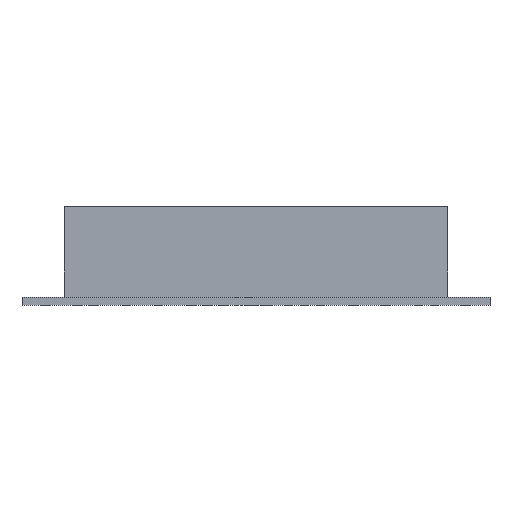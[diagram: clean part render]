
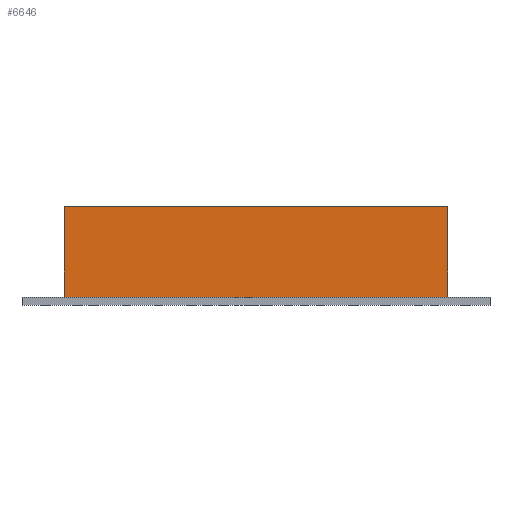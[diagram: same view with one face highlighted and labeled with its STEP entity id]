
A CAD part, left-side view. The second image highlights one B-rep face of the part: STEP entity #6646.
In plain terms, the highlighted planar face has unit normal (-1, 0, 0).
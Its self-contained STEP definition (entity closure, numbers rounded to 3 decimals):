
#126 = PLANE('',#127);
#127 = AXIS2_PLACEMENT_3D('',#128,#129,#130);
#128 = CARTESIAN_POINT('',(-0.1,-86.6,-112.));
#129 = DIRECTION('',(-0.,-0.,1.));
#130 = DIRECTION('',(1.,0.,0.));
#2374 = VERTEX_POINT('',#2375);
#2375 = CARTESIAN_POINT('',(-140.,71.,-112.));
#2389 = PLANE('',#2390);
#2390 = AXIS2_PLACEMENT_3D('',#2391,#2392,#2393);
#2391 = CARTESIAN_POINT('',(-136.,71.,-112.));
#2392 = DIRECTION('',(-0.,1.,-0.));
#2393 = DIRECTION('',(0.,0.,-1.));
#2401 = EDGE_CURVE('',#2402,#2374,#2404,.T.);
#2402 = VERTEX_POINT('',#2403);
#2403 = CARTESIAN_POINT('',(-140.,-71.,-112.));
#2404 = SURFACE_CURVE('',#2405,(#2409,#2416),.PCURVE_S1.);
#2405 = LINE('',#2406,#2407);
#2406 = CARTESIAN_POINT('',(-140.,-71.,-112.));
#2407 = VECTOR('',#2408,1.);
#2408 = DIRECTION('',(-0.,1.,-0.));
#2409 = PCURVE('',#126,#2410);
#2410 = DEFINITIONAL_REPRESENTATION('',(#2411),#2415);
#2411 = LINE('',#2412,#2413);
#2412 = CARTESIAN_POINT('',(-139.9,15.6));
#2413 = VECTOR('',#2414,1.);
#2414 = DIRECTION('',(-0.,1.));
#2415 = ( GEOMETRIC_REPRESENTATION_CONTEXT(2) 
PARAMETRIC_REPRESENTATION_CONTEXT() REPRESENTATION_CONTEXT('2D SPACE',''
  ) );
#2416 = PCURVE('',#2417,#2422);
#2417 = PLANE('',#2418);
#2418 = AXIS2_PLACEMENT_3D('',#2419,#2420,#2421);
#2419 = CARTESIAN_POINT('',(-140.,-71.,-112.));
#2420 = DIRECTION('',(-1.,-0.,-0.));
#2421 = DIRECTION('',(0.,0.,-1.));
#2422 = DEFINITIONAL_REPRESENTATION('',(#2423),#2427);
#2423 = LINE('',#2424,#2425);
#2424 = CARTESIAN_POINT('',(-0.,-0.));
#2425 = VECTOR('',#2426,1.);
#2426 = DIRECTION('',(-0.,-1.));
#2427 = ( GEOMETRIC_REPRESENTATION_CONTEXT(2) 
PARAMETRIC_REPRESENTATION_CONTEXT() REPRESENTATION_CONTEXT('2D SPACE',''
  ) );
#2443 = PLANE('',#2444);
#2444 = AXIS2_PLACEMENT_3D('',#2445,#2446,#2447);
#2445 = CARTESIAN_POINT('',(-136.,-71.,-112.));
#2446 = DIRECTION('',(-0.,1.,-0.));
#2447 = DIRECTION('',(0.,0.,-1.));
#6537 = PLANE('',#6538);
#6538 = AXIS2_PLACEMENT_3D('',#6539,#6540,#6541);
#6539 = CARTESIAN_POINT('',(-136.,-71.,-78.6));
#6540 = DIRECTION('',(-0.,-0.,1.));
#6541 = DIRECTION('',(1.,0.,0.));
#6555 = VERTEX_POINT('',#6556);
#6556 = CARTESIAN_POINT('',(-140.,71.,-78.6));
#6577 = EDGE_CURVE('',#2374,#6555,#6578,.T.);
#6578 = SURFACE_CURVE('',#6579,(#6583,#6590),.PCURVE_S1.);
#6579 = LINE('',#6580,#6581);
#6580 = CARTESIAN_POINT('',(-140.,71.,-112.));
#6581 = VECTOR('',#6582,1.);
#6582 = DIRECTION('',(-0.,-0.,1.));
#6583 = PCURVE('',#2389,#6584);
#6584 = DEFINITIONAL_REPRESENTATION('',(#6585),#6589);
#6585 = LINE('',#6586,#6587);
#6586 = CARTESIAN_POINT('',(-0.,4.));
#6587 = VECTOR('',#6588,1.);
#6588 = DIRECTION('',(-1.,0.));
#6589 = ( GEOMETRIC_REPRESENTATION_CONTEXT(2) 
PARAMETRIC_REPRESENTATION_CONTEXT() REPRESENTATION_CONTEXT('2D SPACE',''
  ) );
#6590 = PCURVE('',#2417,#6591);
#6591 = DEFINITIONAL_REPRESENTATION('',(#6592),#6596);
#6592 = LINE('',#6593,#6594);
#6593 = CARTESIAN_POINT('',(-0.,-142.));
#6594 = VECTOR('',#6595,1.);
#6595 = DIRECTION('',(-1.,-0.));
#6596 = ( GEOMETRIC_REPRESENTATION_CONTEXT(2) 
PARAMETRIC_REPRESENTATION_CONTEXT() REPRESENTATION_CONTEXT('2D SPACE',''
  ) );
#6604 = VERTEX_POINT('',#6605);
#6605 = CARTESIAN_POINT('',(-140.,-71.,-78.6));
#6626 = EDGE_CURVE('',#2402,#6604,#6627,.T.);
#6627 = SURFACE_CURVE('',#6628,(#6632,#6639),.PCURVE_S1.);
#6628 = LINE('',#6629,#6630);
#6629 = CARTESIAN_POINT('',(-140.,-71.,-112.));
#6630 = VECTOR('',#6631,1.);
#6631 = DIRECTION('',(-0.,-0.,1.));
#6632 = PCURVE('',#2443,#6633);
#6633 = DEFINITIONAL_REPRESENTATION('',(#6634),#6638);
#6634 = LINE('',#6635,#6636);
#6635 = CARTESIAN_POINT('',(-0.,4.));
#6636 = VECTOR('',#6637,1.);
#6637 = DIRECTION('',(-1.,0.));
#6638 = ( GEOMETRIC_REPRESENTATION_CONTEXT(2) 
PARAMETRIC_REPRESENTATION_CONTEXT() REPRESENTATION_CONTEXT('2D SPACE',''
  ) );
#6639 = PCURVE('',#2417,#6640);
#6640 = DEFINITIONAL_REPRESENTATION('',(#6641),#6645);
#6641 = LINE('',#6642,#6643);
#6642 = CARTESIAN_POINT('',(-0.,-0.));
#6643 = VECTOR('',#6644,1.);
#6644 = DIRECTION('',(-1.,-0.));
#6645 = ( GEOMETRIC_REPRESENTATION_CONTEXT(2) 
PARAMETRIC_REPRESENTATION_CONTEXT() REPRESENTATION_CONTEXT('2D SPACE',''
  ) );
#6646 = ADVANCED_FACE('',(#6647),#2417,.T.);
#6647 = FACE_BOUND('',#6648,.F.);
#6648 = EDGE_LOOP('',(#6649,#6650,#6651,#6652));
#6649 = ORIENTED_EDGE('',*,*,#6626,.F.);
#6650 = ORIENTED_EDGE('',*,*,#2401,.T.);
#6651 = ORIENTED_EDGE('',*,*,#6577,.T.);
#6652 = ORIENTED_EDGE('',*,*,#6653,.F.);
#6653 = EDGE_CURVE('',#6604,#6555,#6654,.T.);
#6654 = SURFACE_CURVE('',#6655,(#6659,#6666),.PCURVE_S1.);
#6655 = LINE('',#6656,#6657);
#6656 = CARTESIAN_POINT('',(-140.,-71.,-78.6));
#6657 = VECTOR('',#6658,1.);
#6658 = DIRECTION('',(-0.,1.,-0.));
#6659 = PCURVE('',#2417,#6660);
#6660 = DEFINITIONAL_REPRESENTATION('',(#6661),#6665);
#6661 = LINE('',#6662,#6663);
#6662 = CARTESIAN_POINT('',(-33.4,-0.));
#6663 = VECTOR('',#6664,1.);
#6664 = DIRECTION('',(-0.,-1.));
#6665 = ( GEOMETRIC_REPRESENTATION_CONTEXT(2) 
PARAMETRIC_REPRESENTATION_CONTEXT() REPRESENTATION_CONTEXT('2D SPACE',''
  ) );
#6666 = PCURVE('',#6537,#6667);
#6667 = DEFINITIONAL_REPRESENTATION('',(#6668),#6672);
#6668 = LINE('',#6669,#6670);
#6669 = CARTESIAN_POINT('',(-4.,0.));
#6670 = VECTOR('',#6671,1.);
#6671 = DIRECTION('',(-0.,1.));
#6672 = ( GEOMETRIC_REPRESENTATION_CONTEXT(2) 
PARAMETRIC_REPRESENTATION_CONTEXT() REPRESENTATION_CONTEXT('2D SPACE',''
  ) );
